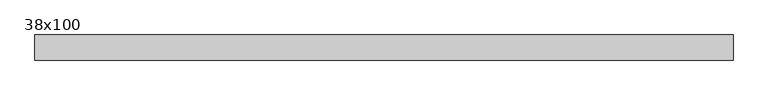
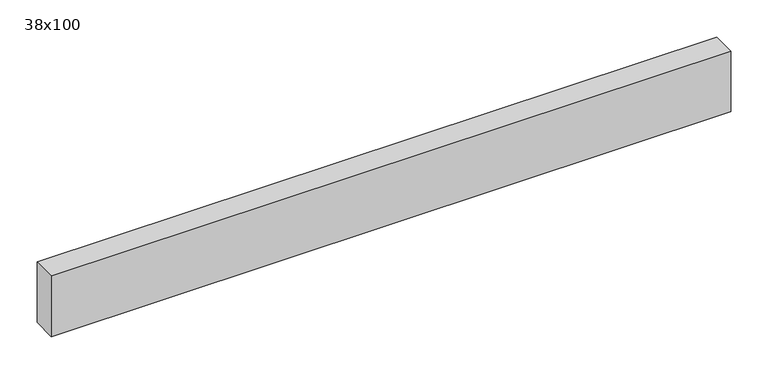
"""IFC4 building model written with IfcOpenShell, lengths in millimetres: beam geometry, Poutre - Bois de construction de dimensions courantes : 38x100."""

from ifc_helpers import new_model, si_unit, frame, origin, place, context, project, spatial, polyline, outline, extrude, source, transform, mapped, element, save


def beam_38x100_8eef1bf9(model_context):
    return source(origin(), model_context, "Body", "SweptSolid", [
        extrude(outline(polyline([(524.0, 19.05), (524.0, -19.05), (-533.0, -19.05), (-533.0, 19.05), (524.0, 19.05)])), frame((0.0, 0.0, -50.0), z_axis=(0.0, 0.0, 1.0), x_axis=(1.0, 0.0, 0.0)), (0.0, 0.0, 1.0), 100.0),
    ])


if __name__ == "__main__":
    model = new_model("IFC4")
    model_context = context("Model", 3, world=origin())
    ifc_project = project(units=[si_unit("LENGTHUNIT", "METRE", prefix="MILLI")], contexts=[model_context])
    site = spatial("IfcSite", under=ifc_project)
    building = spatial("IfcBuilding", under=site)
    placement = place(None, origin())
    beam_38x100_shape = beam_38x100_8eef1bf9(model_context)
    element("IfcBeam", 1, ObjectType="Poutre - Bois de construction de dimensions courantes : 38x100", at=placement, inside=building, context=model_context, shape_type="MappedRepresentation", body=[
        mapped(beam_38x100_shape, transform((0.0, 0.0, 0.0), x_axis=(1.0, 0.0, 0.0), y_axis=(0.0, 1.0, 0.0), z_axis=(0.0, 0.0, 1.0))),
    ])
    save(model, "model.ifc")
